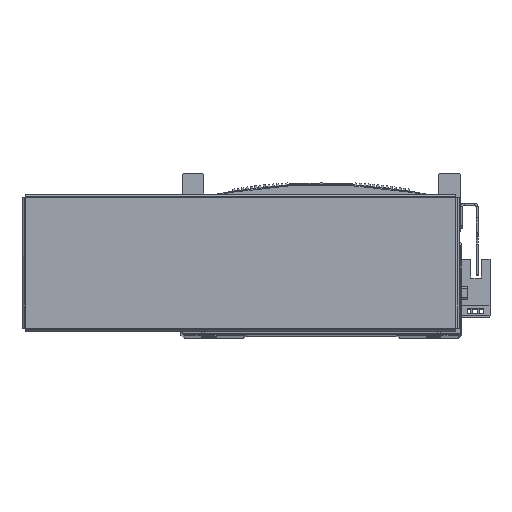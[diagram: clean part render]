
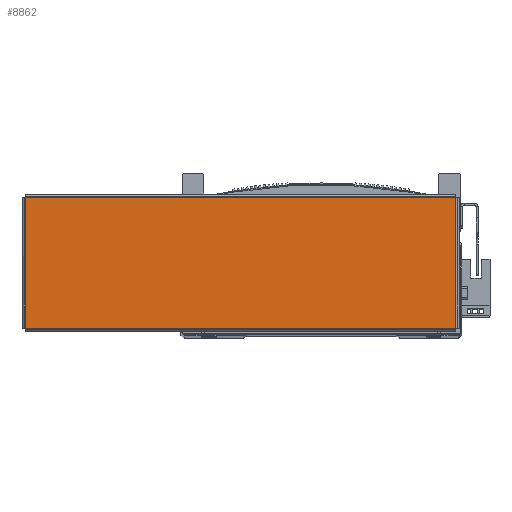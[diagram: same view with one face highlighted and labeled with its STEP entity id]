
A CAD part, top view. The second image highlights one B-rep face of the part: STEP entity #8862.
In plain terms, the highlighted planar face has unit normal (0, 0, 1) as drawn and (0, -1, 0) by its records, which use the part's own axes.
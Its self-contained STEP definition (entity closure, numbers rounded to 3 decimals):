
#8862 = ADVANCED_FACE ( 'NONE', ( #13833 ), #31890, .F. ) ;
#13833 = FACE_OUTER_BOUND ( 'NONE', #71038, .T. ) ;
#31865 = DIRECTION ( 'NONE',  ( 0., 1., 0. ) ) ;
#31869 = DIRECTION ( 'NONE',  ( 0., 0., 1. ) ) ;
#31890 = PLANE ( 'NONE',  #41873 ) ;
#31907 = CARTESIAN_POINT ( 'NONE',  ( 0., -1., 0. ) ) ;
#41873 = AXIS2_PLACEMENT_3D ( 'NONE', #31907, #31865, #31869 ) ;
#48455 = EDGE_CURVE ( 'NONE', #71327, #71366, #63313, .T. ) ;
#48463 = EDGE_CURVE ( 'NONE', #71291, #71396, #63266, .T. ) ;
#48517 = EDGE_CURVE ( 'NONE', #71396, #71327, #63270, .T. ) ;
#48602 = EDGE_CURVE ( 'NONE', #71366, #71291, #63366, .T. ) ;
#58739 = CARTESIAN_POINT ( 'NONE',  ( -103.513, -1., -31.363 ) ) ;
#58761 = CARTESIAN_POINT ( 'NONE',  ( 103.513, -1., 31.363 ) ) ;
#58887 = CARTESIAN_POINT ( 'NONE',  ( -103.513, -1., 31.363 ) ) ;
#58940 = CARTESIAN_POINT ( 'NONE',  ( 103.513, -1., -31.363 ) ) ;
#63266 = LINE ( 'NONE', #66050, #63311 ) ;
#63270 = LINE ( 'NONE', #66145, #63271 ) ;
#63271 = VECTOR ( 'NONE', #66128, 1000. ) ;
#63281 = VECTOR ( 'NONE', #66047, 1000. ) ;
#63311 = VECTOR ( 'NONE', #66052, 1000. ) ;
#63313 = LINE ( 'NONE', #66068, #63281 ) ;
#63338 = VECTOR ( 'NONE', #66227, 1000. ) ;
#63366 = LINE ( 'NONE', #66215, #63338 ) ;
#66047 = DIRECTION ( 'NONE',  ( -1., 0., 0. ) ) ;
#66050 = CARTESIAN_POINT ( 'NONE',  ( -103.543, -1., -31.363 ) ) ;
#66052 = DIRECTION ( 'NONE',  ( 1., 0., 0. ) ) ;
#66068 = CARTESIAN_POINT ( 'NONE',  ( 103.543, -1., 31.363 ) ) ;
#66128 = DIRECTION ( 'NONE',  ( 0., 0., 1. ) ) ;
#66145 = CARTESIAN_POINT ( 'NONE',  ( 103.513, -1., -31.393 ) ) ;
#66215 = CARTESIAN_POINT ( 'NONE',  ( -103.513, -1., 31.393 ) ) ;
#66227 = DIRECTION ( 'NONE',  ( 0., 0., -1. ) ) ;
#71038 = EDGE_LOOP ( 'NONE', ( #71179, #71233, #71244, #71282 ) ) ;
#71179 = ORIENTED_EDGE ( 'NONE', *, *, #48455, .T. ) ;
#71233 = ORIENTED_EDGE ( 'NONE', *, *, #48602, .T. ) ;
#71244 = ORIENTED_EDGE ( 'NONE', *, *, #48463, .T. ) ;
#71282 = ORIENTED_EDGE ( 'NONE', *, *, #48517, .T. ) ;
#71291 = VERTEX_POINT ( 'NONE', #58739 ) ;
#71327 = VERTEX_POINT ( 'NONE', #58761 ) ;
#71366 = VERTEX_POINT ( 'NONE', #58887 ) ;
#71396 = VERTEX_POINT ( 'NONE', #58940 ) ;
